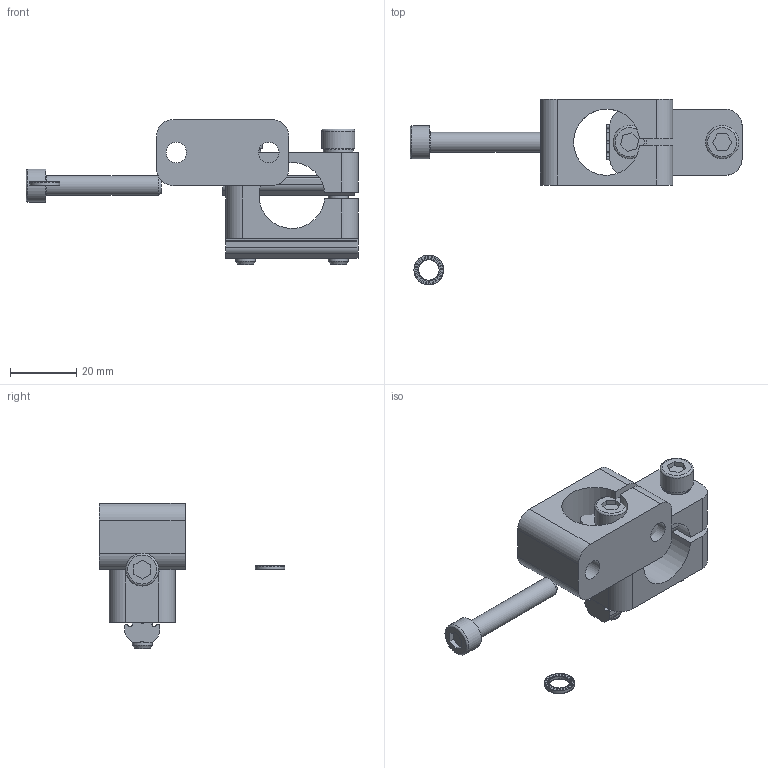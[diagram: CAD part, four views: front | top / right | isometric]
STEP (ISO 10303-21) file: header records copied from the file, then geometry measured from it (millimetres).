
FILE_DESCRIPTION( ( 'Unknown' ), '1' );
FILE_NAME( 'C:/Users/Fabrizio/Desktop/DISEGNI ACCESSORI FP SOLIDEDGE/CA.KVB.JU20.stp', 'Unknown', ( 'Unknown' ), ( 'Unknown' ), 'PSStep 13.0', 'Unknown', ' ' );
FILE_SCHEMA( ( 'AUTOMOTIVE_DESIGN { 1 0 10303 214 1 1 1 1 }' ) );
Length unit declared in the file: millimetre
Products named in the file (5): Assem1; KVB.JU20; V-tcei M  6 x 35; R.6.SCH; CA.GWP.6.28
Bounding box: 100.5 x 56.14 x 43.9 mm (x, y, z)
Volume: 32207.6 mm3; surface area: 18670.9 mm2
Topology: 7 solids, 10 shells, 719 faces, 2105 edges, 1395 vertices
Faces by surface type: plane 650, cylinder 60, torus 6, cone 3
Full cylindrical faces by diameter (mm): 4.917 x4, 6 x3, 6.2 x9, 9 x3, 10 x3
Entity records: 10289 total; most frequent: CARTESIAN_POINT 1555, DIRECTION 1489, ORIENTED_EDGE 1460, EDGE_CURVE 730, AXIS2_PLACEMENT_3D 505, VERTEX_POINT 491, LINE 479, VECTOR 479
